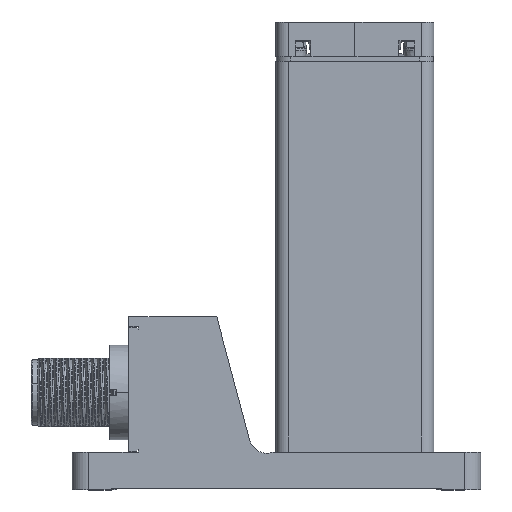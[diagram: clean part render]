
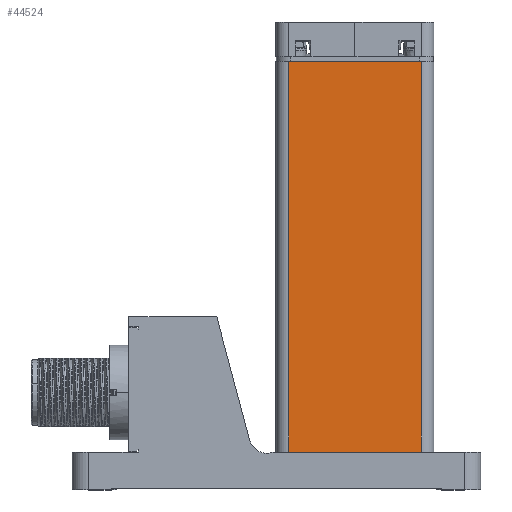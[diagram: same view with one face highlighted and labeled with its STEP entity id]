
A CAD part, top view. The second image highlights one B-rep face of the part: STEP entity #44524.
In plain terms, the highlighted planar face has unit normal (0, 0, 1).
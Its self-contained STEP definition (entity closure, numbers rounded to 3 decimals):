
#12263=DIRECTION('',(1.,0.,0.));
#12264=VECTOR('',#12263,21.15);
#12265=CARTESIAN_POINT('',(-10.575,-9.7,12.575));
#12266=LINE('',#12265,#12264);
#12355=DIRECTION('',(0.,-1.,0.));
#12356=VECTOR('',#12355,62.2);
#12357=CARTESIAN_POINT('',(-10.575,52.5,12.575));
#12358=LINE('',#12357,#12356);
#12359=DIRECTION('',(-1.,0.,0.));
#12360=VECTOR('',#12359,21.15);
#12361=CARTESIAN_POINT('',(10.575,52.5,12.575));
#12362=LINE('',#12361,#12360);
#12363=DIRECTION('',(0.,1.,0.));
#12364=VECTOR('',#12363,62.2);
#12365=CARTESIAN_POINT('',(10.575,-9.7,12.575));
#12366=LINE('',#12365,#12364);
#19470=CARTESIAN_POINT('',(10.575,52.5,12.575));
#19472=VERTEX_POINT('',#19470);
#19479=CARTESIAN_POINT('',(-10.575,52.5,12.575));
#19481=VERTEX_POINT('',#19479);
#19498=CARTESIAN_POINT('',(-10.575,-9.7,12.575));
#19499=CARTESIAN_POINT('',(10.575,-9.7,12.575));
#19500=VERTEX_POINT('',#19498);
#19501=VERTEX_POINT('',#19499);
#44511=CARTESIAN_POINT('',(0.,-15.7,12.575));
#44512=DIRECTION('',(0.,0.,1.));
#44513=DIRECTION('',(1.,0.,0.));
#44514=AXIS2_PLACEMENT_3D('',#44511,#44512,#44513);
#44515=PLANE('',#44514);
#44516=ORIENTED_EDGE('',*,*,#44302,.F.);
#44518=ORIENTED_EDGE('',*,*,#44517,.F.);
#44520=ORIENTED_EDGE('',*,*,#44519,.F.);
#44521=ORIENTED_EDGE('',*,*,#44503,.F.);
#44522=EDGE_LOOP('',(#44516,#44518,#44520,#44521));
#44523=FACE_OUTER_BOUND('',#44522,.F.);
#44524=ADVANCED_FACE('',(#44523),#44515,.T.);
#44302=EDGE_CURVE('',#19500,#19501,#12266,.T.);
#44503=EDGE_CURVE('',#19501,#19472,#12366,.T.);
#44517=EDGE_CURVE('',#19481,#19500,#12358,.T.);
#44519=EDGE_CURVE('',#19472,#19481,#12362,.T.);
